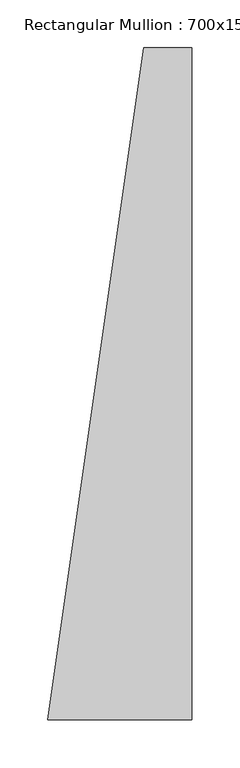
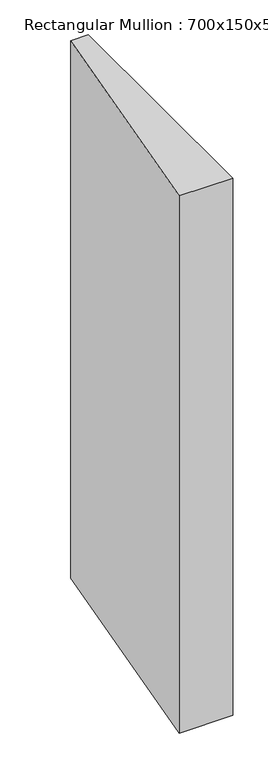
"""IFC4 building model written with IfcOpenShell, lengths in millimetres: member geometry, Rectangular Mullion : 700x150x50mm."""

from ifc_helpers import new_model, si_unit, frame, origin, place, context, project, spatial, polyline, outline, extrude, source, transform, mapped, element, save


def rectangular_mullion_700x150x50mm_9aadb9c9(model_context):
    return source(origin(), model_context, "Body", "SweptSolid", [
        extrude(outline(polyline([(0.0, -350.0), (-150.0, -350.0), (-50.0, 350.0), (0.0, 350.0), (0.0, -350.0)])), frame((0.0, 0.0, -1591.6667097), z_axis=(0.0, 0.0, 1.0), x_axis=(1.0, 0.0, 0.0)), (0.0, 0.0, 1.0), 1591.6667097),
    ])


if __name__ == "__main__":
    model = new_model("IFC4")
    model_context = context("Model", 3, world=origin())
    ifc_project = project(units=[si_unit("LENGTHUNIT", "METRE", prefix="MILLI")], contexts=[model_context])
    site = spatial("IfcSite", under=ifc_project)
    building = spatial("IfcBuilding", under=site)
    placement = place(None, origin())
    rectangular_mullion_700x150x50mm_shape = rectangular_mullion_700x150x50mm_9aadb9c9(model_context)
    element("IfcMember", 1, ObjectType="Rectangular Mullion : 700x150x50mm", at=placement, inside=building, context=model_context, shape_type="MappedRepresentation", body=[
        mapped(rectangular_mullion_700x150x50mm_shape, transform((0.0, 0.0, 0.0), x_axis=(1.0, 0.0, 0.0), y_axis=(0.0, 1.0, 0.0), z_axis=(0.0, 0.0, 1.0))),
    ])
    save(model, "model.ifc")
